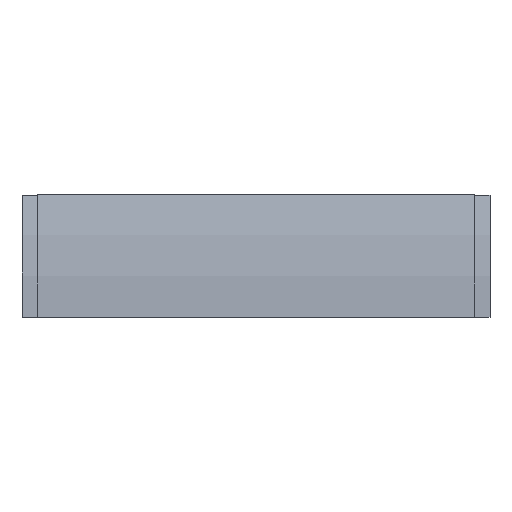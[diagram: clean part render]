
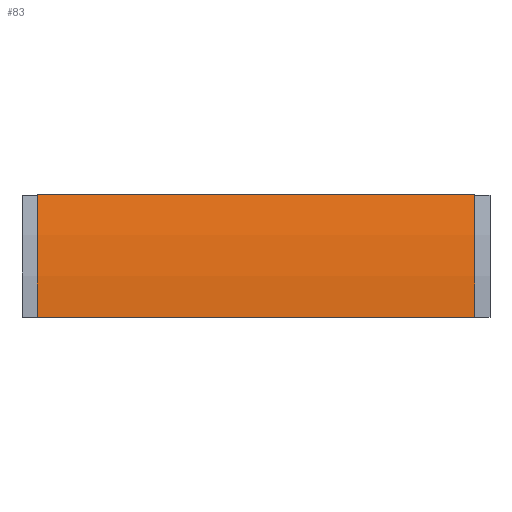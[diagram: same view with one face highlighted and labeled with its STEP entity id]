
A CAD part, front view. The second image highlights one B-rep face of the part: STEP entity #83.
In plain terms, the highlighted cylindrical face has radius 568 mm (diameter 1136 mm), a partial arc.
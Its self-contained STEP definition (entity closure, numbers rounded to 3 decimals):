
#24 = AXIS2_PLACEMENT_3D ( 'NONE', #767, #768, #769 ) ;
#25 = AXIS2_PLACEMENT_3D ( 'NONE', #759, #760, #761 ) ;
#49 = AXIS2_PLACEMENT_3D ( 'NONE', #269, #271, #272 ) ;
#83 = ADVANCED_FACE ( 'NONE', ( #488 ), #478, .T. ) ;
#97 = CARTESIAN_POINT ( 'NONE',  ( -304.25, -41.711, 170.801 ) ) ;
#173 = VECTOR ( 'NONE', #410, 1000. ) ;
#179 = LINE ( 'NONE', #408, #173 ) ;
#206 = VERTEX_POINT ( 'NONE', #713 ) ;
#207 = VERTEX_POINT ( 'NONE', #97 ) ;
#269 = CARTESIAN_POINT ( 'NONE',  ( 0., 500., 0. ) ) ;
#271 = DIRECTION ( 'NONE',  ( 1., 0., 0. ) ) ;
#272 = DIRECTION ( 'NONE',  ( 0., 0., -1. ) ) ;
#333 = CIRCLE ( 'NONE', #25, 568. ) ;
#336 = VECTOR ( 'NONE', #757, 1000. ) ;
#338 = CIRCLE ( 'NONE', #24, 568. ) ;
#339 = LINE ( 'NONE', #758, #336 ) ;
#404 = EDGE_CURVE ( 'NONE', #1011, #1000, #179, .T. ) ;
#408 = CARTESIAN_POINT ( 'NONE',  ( -304.25, -68., 0. ) ) ;
#410 = DIRECTION ( 'NONE',  ( 1., 0., 0. ) ) ;
#432 = EDGE_LOOP ( 'NONE', ( #960, #959, #958, #957 ) ) ;
#478 = CYLINDRICAL_SURFACE ( 'NONE', #49, 568. ) ;
#488 = FACE_OUTER_BOUND ( 'NONE', #432, .T. ) ;
#660 = EDGE_CURVE ( 'NONE', #207, #1011, #333, .T. ) ;
#663 = EDGE_CURVE ( 'NONE', #206, #1000, #338, .T. ) ;
#664 = EDGE_CURVE ( 'NONE', #207, #206, #339, .T. ) ;
#713 = CARTESIAN_POINT ( 'NONE',  ( 304.25, -41.711, 170.801 ) ) ;
#757 = DIRECTION ( 'NONE',  ( 1., 0., 0. ) ) ;
#758 = CARTESIAN_POINT ( 'NONE',  ( -304.25, -41.711, 170.801 ) ) ;
#759 = CARTESIAN_POINT ( 'NONE',  ( -304.25, 500., 0. ) ) ;
#760 = DIRECTION ( 'NONE',  ( 1., 0., 0. ) ) ;
#761 = DIRECTION ( 'NONE',  ( 0., 0., -1. ) ) ;
#767 = CARTESIAN_POINT ( 'NONE',  ( 304.25, 500., 0. ) ) ;
#768 = DIRECTION ( 'NONE',  ( 1., 0., 0. ) ) ;
#769 = DIRECTION ( 'NONE',  ( 0., 0., -1. ) ) ;
#788 = CARTESIAN_POINT ( 'NONE',  ( -304.25, -68., 0. ) ) ;
#789 = CARTESIAN_POINT ( 'NONE',  ( 304.25, -68., 0. ) ) ;
#957 = ORIENTED_EDGE ( 'NONE', *, *, #404, .T. ) ;
#958 = ORIENTED_EDGE ( 'NONE', *, *, #660, .T. ) ;
#959 = ORIENTED_EDGE ( 'NONE', *, *, #664, .F. ) ;
#960 = ORIENTED_EDGE ( 'NONE', *, *, #663, .F. ) ;
#1000 = VERTEX_POINT ( 'NONE', #789 ) ;
#1011 = VERTEX_POINT ( 'NONE', #788 ) ;
